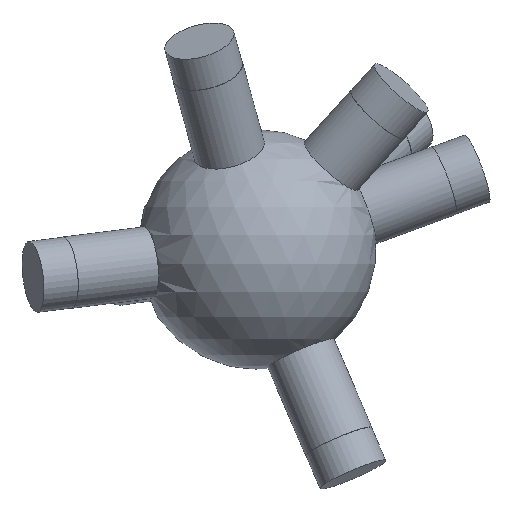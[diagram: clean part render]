
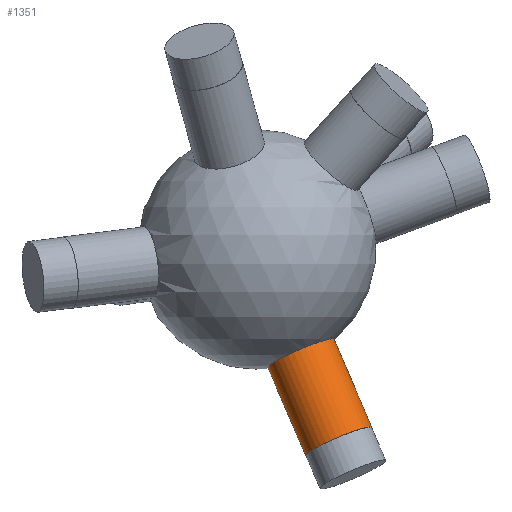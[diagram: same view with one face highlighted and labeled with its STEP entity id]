
A CAD part, left-side view. The second image highlights one B-rep face of the part: STEP entity #1351.
In plain terms, the highlighted cylindrical face has radius 6 mm (diameter 12 mm), a full revolution.
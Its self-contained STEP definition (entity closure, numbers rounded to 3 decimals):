
#33 = SPHERICAL_SURFACE('',#34,20.);
#34 = AXIS2_PLACEMENT_3D('',#35,#36,#37);
#35 = CARTESIAN_POINT('',(0.,0.,0.));
#36 = DIRECTION('',(0.,0.,1.));
#37 = DIRECTION('',(1.,0.,-0.));
#384 = EDGE_CURVE('',#385,#385,#387,.T.);
#385 = VERTEX_POINT('',#386);
#386 = CARTESIAN_POINT('',(-2.242,-12.98,
    -15.05));
#387 = SURFACE_CURVE('',#388,(#393,#497),.PCURVE_S1.);
#388 = CIRCLE('',#389,6.);
#389 = AXIS2_PLACEMENT_3D('',#390,#391,#392);
#390 = CARTESIAN_POINT('',(-2.242,-7.465,
    -17.414));
#391 = DIRECTION('',(-0.117,-0.391,-0.913));
#392 = DIRECTION('',(0.,0.919,-0.394)
  );
#393 = PCURVE('',#33,#394);
#394 = DEFINITIONAL_REPRESENTATION('',(#395),#496);
#395 = B_SPLINE_CURVE_WITH_KNOTS('',8,(#396,#397,#398,#399,#400,#401,
    #402,#403,#404,#405,#406,#407,#408,#409,#410,#411,#412,#413,#414,
    #415,#416,#417,#418,#419,#420,#421,#422,#423,#424,#425,#426,#427,
    #428,#429,#430,#431,#432,#433,#434,#435,#436,#437,#438,#439,#440,
    #441,#442,#443,#444,#445,#446,#447,#448,#449,#450,#451,#452,#453,
    #454,#455,#456,#457,#458,#459,#460,#461,#462,#463,#464,#465,#466,
    #467,#468,#469,#470,#471,#472,#473,#474,#475,#476,#477,#478,#479,
    #480,#481,#482,#483,#484,#485,#486,#487,#488,#489,#490,#491,#492,
    #493,#494,#495),.UNSPECIFIED.,.T.,.F.,(9,7,7,7,7,7,7,7,7,7,7,7,7,7,9
    ),(3.142,3.927,4.614,5.216,
    5.742,5.972,6.188,6.39,
    6.58,6.757,6.924,7.237,
    7.784,8.604,9.425),.UNSPECIFIED.);
#396 = CARTESIAN_POINT('',(4.541,-0.852));
#397 = CARTESIAN_POINT('',(4.497,-0.847));
#398 = CARTESIAN_POINT('',(4.453,-0.844));
#399 = CARTESIAN_POINT('',(4.408,-0.843));
#400 = CARTESIAN_POINT('',(4.364,-0.845));
#401 = CARTESIAN_POINT('',(4.32,-0.848));
#402 = CARTESIAN_POINT('',(4.275,-0.853));
#403 = CARTESIAN_POINT('',(4.232,-0.861));
#404 = CARTESIAN_POINT('',(4.15,-0.878));
#405 = CARTESIAN_POINT('',(4.113,-0.887));
#406 = CARTESIAN_POINT('',(4.076,-0.898));
#407 = CARTESIAN_POINT('',(4.039,-0.911));
#408 = CARTESIAN_POINT('',(4.003,-0.925));
#409 = CARTESIAN_POINT('',(3.967,-0.94));
#410 = CARTESIAN_POINT('',(3.933,-0.956));
#411 = CARTESIAN_POINT('',(3.87,-0.989));
#412 = CARTESIAN_POINT('',(3.841,-1.005));
#413 = CARTESIAN_POINT('',(3.813,-1.022));
#414 = CARTESIAN_POINT('',(3.786,-1.04));
#415 = CARTESIAN_POINT('',(3.76,-1.058));
#416 = CARTESIAN_POINT('',(3.735,-1.078));
#417 = CARTESIAN_POINT('',(3.712,-1.098));
#418 = CARTESIAN_POINT('',(3.672,-1.136));
#419 = CARTESIAN_POINT('',(3.654,-1.154));
#420 = CARTESIAN_POINT('',(3.638,-1.173));
#421 = CARTESIAN_POINT('',(3.624,-1.192));
#422 = CARTESIAN_POINT('',(3.612,-1.212));
#423 = CARTESIAN_POINT('',(3.603,-1.231));
#424 = CARTESIAN_POINT('',(3.597,-1.251));
#425 = CARTESIAN_POINT('',(3.596,-1.279));
#426 = CARTESIAN_POINT('',(3.596,-1.288));
#427 = CARTESIAN_POINT('',(3.597,-1.297));
#428 = CARTESIAN_POINT('',(3.6,-1.305));
#429 = CARTESIAN_POINT('',(3.604,-1.314));
#430 = CARTESIAN_POINT('',(3.609,-1.322));
#431 = CARTESIAN_POINT('',(3.616,-1.331));
#432 = CARTESIAN_POINT('',(3.632,-1.347));
#433 = CARTESIAN_POINT('',(3.642,-1.355));
#434 = CARTESIAN_POINT('',(3.653,-1.363));
#435 = CARTESIAN_POINT('',(3.667,-1.37));
#436 = CARTESIAN_POINT('',(3.683,-1.378));
#437 = CARTESIAN_POINT('',(3.701,-1.385));
#438 = CARTESIAN_POINT('',(3.723,-1.392));
#439 = CARTESIAN_POINT('',(3.772,-1.405));
#440 = CARTESIAN_POINT('',(3.798,-1.412));
#441 = CARTESIAN_POINT('',(3.828,-1.418));
#442 = CARTESIAN_POINT('',(3.862,-1.423));
#443 = CARTESIAN_POINT('',(3.899,-1.429));
#444 = CARTESIAN_POINT('',(3.941,-1.433));
#445 = CARTESIAN_POINT('',(3.988,-1.438));
#446 = CARTESIAN_POINT('',(4.086,-1.445));
#447 = CARTESIAN_POINT('',(4.137,-1.448));
#448 = CARTESIAN_POINT('',(4.192,-1.451));
#449 = CARTESIAN_POINT('',(4.251,-1.453));
#450 = CARTESIAN_POINT('',(4.311,-1.454));
#451 = CARTESIAN_POINT('',(4.373,-1.455));
#452 = CARTESIAN_POINT('',(4.435,-1.455));
#453 = CARTESIAN_POINT('',(4.552,-1.454));
#454 = CARTESIAN_POINT('',(4.609,-1.452));
#455 = CARTESIAN_POINT('',(4.663,-1.45));
#456 = CARTESIAN_POINT('',(4.715,-1.448));
#457 = CARTESIAN_POINT('',(4.763,-1.445));
#458 = CARTESIAN_POINT('',(4.809,-1.442));
#459 = CARTESIAN_POINT('',(4.851,-1.438));
#460 = CARTESIAN_POINT('',(4.925,-1.43));
#461 = CARTESIAN_POINT('',(4.958,-1.426));
#462 = CARTESIAN_POINT('',(4.989,-1.422));
#463 = CARTESIAN_POINT('',(5.016,-1.417));
#464 = CARTESIAN_POINT('',(5.041,-1.412));
#465 = CARTESIAN_POINT('',(5.064,-1.407));
#466 = CARTESIAN_POINT('',(5.084,-1.402));
#467 = CARTESIAN_POINT('',(5.137,-1.386));
#468 = CARTESIAN_POINT('',(5.165,-1.376));
#469 = CARTESIAN_POINT('',(5.187,-1.365));
#470 = CARTESIAN_POINT('',(5.204,-1.354));
#471 = CARTESIAN_POINT('',(5.217,-1.342));
#472 = CARTESIAN_POINT('',(5.227,-1.331));
#473 = CARTESIAN_POINT('',(5.234,-1.319));
#474 = CARTESIAN_POINT('',(5.248,-1.287));
#475 = CARTESIAN_POINT('',(5.249,-1.266));
#476 = CARTESIAN_POINT('',(5.245,-1.246));
#477 = CARTESIAN_POINT('',(5.237,-1.225));
#478 = CARTESIAN_POINT('',(5.226,-1.205));
#479 = CARTESIAN_POINT('',(5.212,-1.185));
#480 = CARTESIAN_POINT('',(5.196,-1.166));
#481 = CARTESIAN_POINT('',(5.152,-1.118));
#482 = CARTESIAN_POINT('',(5.122,-1.09));
#483 = CARTESIAN_POINT('',(5.089,-1.063));
#484 = CARTESIAN_POINT('',(5.054,-1.037));
#485 = CARTESIAN_POINT('',(5.016,-1.013));
#486 = CARTESIAN_POINT('',(4.977,-0.991));
#487 = CARTESIAN_POINT('',(4.937,-0.97));
#488 = CARTESIAN_POINT('',(4.854,-0.932));
#489 = CARTESIAN_POINT('',(4.812,-0.914));
#490 = CARTESIAN_POINT('',(4.768,-0.899));
#491 = CARTESIAN_POINT('',(4.724,-0.885));
#492 = CARTESIAN_POINT('',(4.679,-0.874));
#493 = CARTESIAN_POINT('',(4.633,-0.864));
#494 = CARTESIAN_POINT('',(4.587,-0.857));
#495 = CARTESIAN_POINT('',(4.541,-0.852));
#496 = ( GEOMETRIC_REPRESENTATION_CONTEXT(2) 
PARAMETRIC_REPRESENTATION_CONTEXT() REPRESENTATION_CONTEXT('2D SPACE',''
  ) );
#497 = PCURVE('',#498,#503);
#498 = CYLINDRICAL_SURFACE('',#499,6.);
#499 = AXIS2_PLACEMENT_3D('',#500,#501,#502);
#500 = CARTESIAN_POINT('',(0.,0.,0.));
#501 = DIRECTION('',(-0.117,-0.391,-0.913));
#502 = DIRECTION('',(0.,-0.919,0.394)
  );
#503 = DEFINITIONAL_REPRESENTATION('',(#504),#508);
#504 = LINE('',#505,#506);
#505 = CARTESIAN_POINT('',(-3.142,19.079));
#506 = VECTOR('',#507,1.);
#507 = DIRECTION('',(1.,0.));
#508 = ( GEOMETRIC_REPRESENTATION_CONTEXT(2) 
PARAMETRIC_REPRESENTATION_CONTEXT() REPRESENTATION_CONTEXT('2D SPACE',''
  ) );
#1351 = ADVANCED_FACE('',(#1352),#498,.T.);
#1352 = FACE_BOUND('',#1353,.T.);
#1353 = EDGE_LOOP('',(#1354,#1377,#1404,#1405));
#1354 = ORIENTED_EDGE('',*,*,#1355,.T.);
#1355 = EDGE_CURVE('',#385,#1356,#1358,.T.);
#1356 = VERTEX_POINT('',#1357);
#1357 = CARTESIAN_POINT('',(-4.131,-19.271,
    -29.725));
#1358 = SEAM_CURVE('',#1359,(#1363,#1370),.PCURVE_S1.);
#1359 = LINE('',#1360,#1361);
#1360 = CARTESIAN_POINT('',(0.,-5.515,
    2.364));
#1361 = VECTOR('',#1362,1.);
#1362 = DIRECTION('',(-0.117,-0.391,-0.913));
#1363 = PCURVE('',#498,#1364);
#1364 = DEFINITIONAL_REPRESENTATION('',(#1365),#1369);
#1365 = LINE('',#1366,#1367);
#1366 = CARTESIAN_POINT('',(6.283,-0.));
#1367 = VECTOR('',#1368,1.);
#1368 = DIRECTION('',(0.,1.));
#1369 = ( GEOMETRIC_REPRESENTATION_CONTEXT(2) 
PARAMETRIC_REPRESENTATION_CONTEXT() REPRESENTATION_CONTEXT('2D SPACE',''
  ) );
#1370 = PCURVE('',#498,#1371);
#1371 = DEFINITIONAL_REPRESENTATION('',(#1372),#1376);
#1372 = LINE('',#1373,#1374);
#1373 = CARTESIAN_POINT('',(0.,-0.));
#1374 = VECTOR('',#1375,1.);
#1375 = DIRECTION('',(0.,1.));
#1376 = ( GEOMETRIC_REPRESENTATION_CONTEXT(2) 
PARAMETRIC_REPRESENTATION_CONTEXT() REPRESENTATION_CONTEXT('2D SPACE',''
  ) );
#1377 = ORIENTED_EDGE('',*,*,#1378,.F.);
#1378 = EDGE_CURVE('',#1356,#1356,#1379,.T.);
#1379 = SURFACE_CURVE('',#1380,(#1385,#1392),.PCURVE_S1.);
#1380 = CIRCLE('',#1381,6.);
#1381 = AXIS2_PLACEMENT_3D('',#1382,#1383,#1384);
#1382 = CARTESIAN_POINT('',(-4.131,-13.756,
    -32.089));
#1383 = DIRECTION('',(-0.117,-0.391,-0.913));
#1384 = DIRECTION('',(0.,-0.919,0.394)
  );
#1385 = PCURVE('',#498,#1386);
#1386 = DEFINITIONAL_REPRESENTATION('',(#1387),#1391);
#1387 = LINE('',#1388,#1389);
#1388 = CARTESIAN_POINT('',(0.,35.157));
#1389 = VECTOR('',#1390,1.);
#1390 = DIRECTION('',(1.,0.));
#1391 = ( GEOMETRIC_REPRESENTATION_CONTEXT(2) 
PARAMETRIC_REPRESENTATION_CONTEXT() REPRESENTATION_CONTEXT('2D SPACE',''
  ) );
#1392 = PCURVE('',#1393,#1398);
#1393 = PLANE('',#1394);
#1394 = AXIS2_PLACEMENT_3D('',#1395,#1396,#1397);
#1395 = CARTESIAN_POINT('',(-4.131,-13.756,
    -32.089));
#1396 = DIRECTION('',(-0.117,-0.391,-0.913));
#1397 = DIRECTION('',(0.,-0.919,0.394
    ));
#1398 = DEFINITIONAL_REPRESENTATION('',(#1399),#1403);
#1399 = CIRCLE('',#1400,6.);
#1400 = AXIS2_PLACEMENT_2D('',#1401,#1402);
#1401 = CARTESIAN_POINT('',(0.,0.));
#1402 = DIRECTION('',(1.,0.));
#1403 = ( GEOMETRIC_REPRESENTATION_CONTEXT(2) 
PARAMETRIC_REPRESENTATION_CONTEXT() REPRESENTATION_CONTEXT('2D SPACE',''
  ) );
#1404 = ORIENTED_EDGE('',*,*,#1355,.F.);
#1405 = ORIENTED_EDGE('',*,*,#384,.T.);
